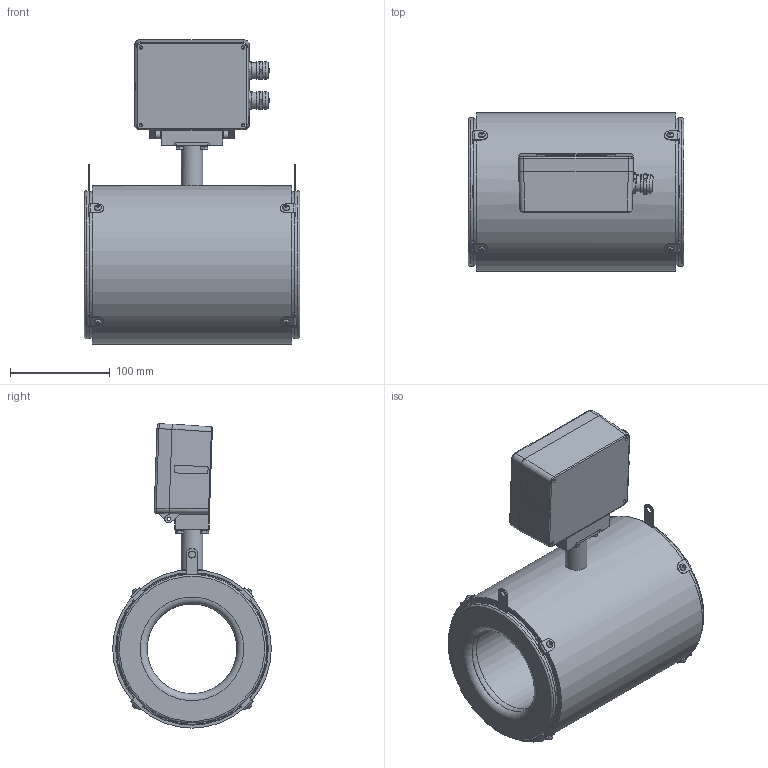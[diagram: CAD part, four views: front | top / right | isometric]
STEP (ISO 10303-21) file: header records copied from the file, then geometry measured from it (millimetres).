
FILE_DESCRIPTION(('STEP AP203'), '1');
FILE_NAME('Âçëåò ÝÌ ÏÐÎÔÈ DN100 Ñýíäâè÷', '', ('UNSPECIFIED'), ('UNSPECIFIED'), 'C3D Converter', 'C3D Toolkit', '');
FILE_SCHEMA(('CONFIG_CONTROL_DESIGN'));
Length unit declared in the file: millimetre
Products named in the file (1): ШКСД.407212.004-002-08
Bounding box: 216 x 159 x 304.97 mm (x, y, z)
Volume: 1274454.9 mm3; surface area: 507375.7 mm2
Topology: 3 solids, 12 shells, 1072 faces, 2592 edges, 1627 vertices
Faces by surface type: plane 584, cylinder 290, cone 87, bspline 68, torus 35, sphere 8
Full cylindrical faces by diameter (mm): 3.242 x18, 3.422 x2, 4 x14, 4.134 x1, 4.5 x10, 4.917 x2, 5 x8, 6 x4, 6.2 x2, 7 x10, 7.5 x4, 8.7 x2, 12 x4, 15 x4, 16 x8, 16.3 x2, 17.5 x4, 19 x2, 20.2 x1, 22 x1, 26 x2, 90 x1, 98 x1, 100 x1, 108 x1, 110 x2, 147 x2, 149 x2, 150 x2, 151 x1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
Entity records: 56929 total; most frequent: CARTESIAN_POINT 24461, DIRECTION 4797, ORIENTED_EDGE 4698, EDGE_CURVE 2355, AXIS2_PLACEMENT_3D 1810, VERTEX_POINT 1607, EDGE_LOOP 1430, LINE 1177
